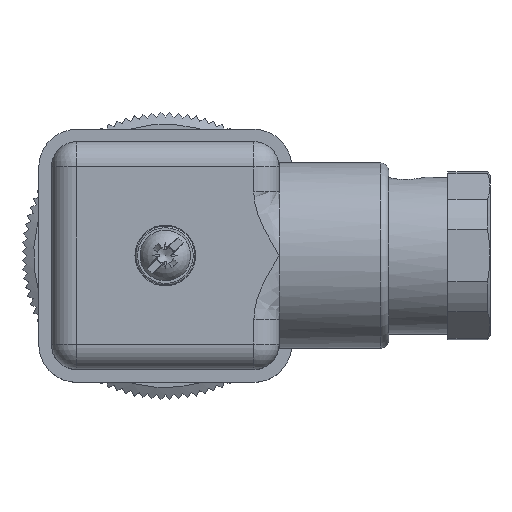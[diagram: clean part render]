
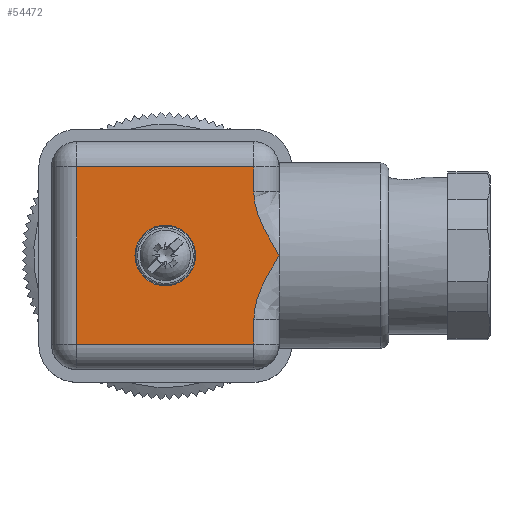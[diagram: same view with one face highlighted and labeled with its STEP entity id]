
A CAD part, top view. The second image highlights one B-rep face of the part: STEP entity #54472.
In plain terms, the highlighted planar face has unit normal (0, 0, 1) as drawn and (0, 1, 0) by its records, which use the part's own axes.
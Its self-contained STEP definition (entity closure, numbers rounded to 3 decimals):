
#1043=B_SPLINE_CURVE_WITH_KNOTS('',3,(#83882,#83883,#83884,#83885,#83886,
#83887,#83888,#83889,#83890,#83891,#83892,#83893,#83894,#83895,#83896,#83897,
#83898,#83899,#83900,#83901,#83902,#83903,#83904,#83905,#83906,#83907,#83908,
#83909,#83910,#83911,#83912,#83913,#83914,#83915),.UNSPECIFIED.,.F.,.F.,
(4,3,3,3,3,3,3,3,3,3,3,4),(0.,0.099,0.3,0.4,
0.486,0.5,0.5,0.638,0.76,
0.872,0.976,1.),.UNSPECIFIED.);
#1044=B_SPLINE_CURVE_WITH_KNOTS('',3,(#83926,#83927,#83928,#83929,#83930,
#83931,#83932,#83933,#83934,#83935,#83936,#83937,#83938,#83939,#83940,#83941,
#83942,#83943,#83944,#83945,#83946,#83947,#83948,#83949,#83950,#83951,#83952,
#83953,#83954,#83955,#83956,#83957,#83958,#83959),.UNSPECIFIED.,.F.,.F.,
(4,3,3,3,3,3,3,3,3,3,3,4),(0.,0.104,0.218,0.342,
0.491,0.5,0.5,0.587,0.683,
0.812,0.918,1.),.UNSPECIFIED.);
#3224=LINE('',#83917,#9096);
#3225=LINE('',#83919,#9097);
#3226=LINE('',#83921,#9098);
#3227=LINE('',#83923,#9099);
#3228=LINE('',#83925,#9100);
#9096=VECTOR('',#65323,1.);
#9097=VECTOR('',#65324,1.);
#9098=VECTOR('',#65325,1.);
#9099=VECTOR('',#65326,1.);
#9100=VECTOR('',#65327,1.);
#14242=FACE_BOUND('',#18747,.T.);
#15084=FACE_OUTER_BOUND('',#18746,.T.);
#18746=EDGE_LOOP('',(#39241,#39242,#39243,#39244,#39245,#39246,#39247));
#18747=EDGE_LOOP('',(#39248));
#22146=CIRCLE('',#58618,3.6);
#24012=VERTEX_POINT('',#83880);
#24013=VERTEX_POINT('',#83881);
#24014=VERTEX_POINT('',#83916);
#24015=VERTEX_POINT('',#83918);
#24016=VERTEX_POINT('',#83920);
#24017=VERTEX_POINT('',#83922);
#24018=VERTEX_POINT('',#83924);
#24019=VERTEX_POINT('',#83960);
#29257=EDGE_CURVE('',#24012,#24013,#1043,.T.);
#29258=EDGE_CURVE('',#24013,#24014,#3224,.T.);
#29259=EDGE_CURVE('',#24014,#24015,#3225,.T.);
#29260=EDGE_CURVE('',#24015,#24016,#3226,.T.);
#29261=EDGE_CURVE('',#24016,#24017,#3227,.T.);
#29262=EDGE_CURVE('',#24017,#24018,#3228,.T.);
#29263=EDGE_CURVE('',#24018,#24012,#1044,.T.);
#29264=EDGE_CURVE('',#24019,#24019,#22146,.T.);
#39241=ORIENTED_EDGE('',*,*,#29257,.T.);
#39242=ORIENTED_EDGE('',*,*,#29258,.T.);
#39243=ORIENTED_EDGE('',*,*,#29259,.T.);
#39244=ORIENTED_EDGE('',*,*,#29260,.T.);
#39245=ORIENTED_EDGE('',*,*,#29261,.T.);
#39246=ORIENTED_EDGE('',*,*,#29262,.T.);
#39247=ORIENTED_EDGE('',*,*,#29263,.T.);
#39248=ORIENTED_EDGE('',*,*,#29264,.T.);
#51355=PLANE('',#58617);
#54472=ADVANCED_FACE('',(#15084,#14242),#51355,.T.);
#58617=AXIS2_PLACEMENT_3D('',#83879,#65321,#65322);
#58618=AXIS2_PLACEMENT_3D('',#83961,#65328,#65329);
#65321=DIRECTION('center_axis',(0.,1.,0.));
#65322=DIRECTION('ref_axis',(0.,0.,1.));
#65323=DIRECTION('',(0.,0.,-1.));
#65324=DIRECTION('',(-1.,0.,0.));
#65325=DIRECTION('',(0.,0.,1.));
#65326=DIRECTION('',(1.,0.,0.));
#65327=DIRECTION('',(0.,0.,-1.));
#65328=DIRECTION('center_axis',(0.,-1.,0.));
#65329=DIRECTION('ref_axis',(0.,0.,-1.));
#83879=CARTESIAN_POINT('Origin',(13.5,26.5,0.));
#83880=CARTESIAN_POINT('',(27.,26.5,13.5));
#83881=CARTESIAN_POINT('',(24.,26.5,5.95));
#83882=CARTESIAN_POINT('Ctrl Pts',(27.,26.5,13.5));
#83883=CARTESIAN_POINT('Ctrl Pts',(26.856,26.5,13.265));
#83884=CARTESIAN_POINT('Ctrl Pts',(26.713,26.5,13.031));
#83885=CARTESIAN_POINT('Ctrl Pts',(26.571,26.5,12.798));
#83886=CARTESIAN_POINT('Ctrl Pts',(26.285,26.5,12.326));
#83887=CARTESIAN_POINT('Ctrl Pts',(26.006,26.5,11.856));
#83888=CARTESIAN_POINT('Ctrl Pts',(25.741,26.5,11.378));
#83889=CARTESIAN_POINT('Ctrl Pts',(25.609,26.5,11.14));
#83890=CARTESIAN_POINT('Ctrl Pts',(25.48,26.5,10.899));
#83891=CARTESIAN_POINT('Ctrl Pts',(25.356,26.5,10.656));
#83892=CARTESIAN_POINT('Ctrl Pts',(25.249,26.5,10.447));
#83893=CARTESIAN_POINT('Ctrl Pts',(25.146,26.5,10.237));
#83894=CARTESIAN_POINT('Ctrl Pts',(25.047,26.5,10.024));
#83895=CARTESIAN_POINT('Ctrl Pts',(25.031,26.5,9.988));
#83896=CARTESIAN_POINT('Ctrl Pts',(25.014,26.5,9.953));
#83897=CARTESIAN_POINT('Ctrl Pts',(24.998,26.5,9.917));
#83898=CARTESIAN_POINT('Ctrl Pts',(24.998,26.5,9.917));
#83899=CARTESIAN_POINT('Ctrl Pts',(24.998,26.5,9.917));
#83900=CARTESIAN_POINT('Ctrl Pts',(24.998,26.5,9.917));
#83901=CARTESIAN_POINT('Ctrl Pts',(24.841,26.5,9.572));
#83902=CARTESIAN_POINT('Ctrl Pts',(24.694,26.5,9.221));
#83903=CARTESIAN_POINT('Ctrl Pts',(24.564,26.5,8.864));
#83904=CARTESIAN_POINT('Ctrl Pts',(24.451,26.5,8.55));
#83905=CARTESIAN_POINT('Ctrl Pts',(24.349,26.5,8.231));
#83906=CARTESIAN_POINT('Ctrl Pts',(24.265,26.5,7.909));
#83907=CARTESIAN_POINT('Ctrl Pts',(24.188,26.5,7.611));
#83908=CARTESIAN_POINT('Ctrl Pts',(24.125,26.5,7.309));
#83909=CARTESIAN_POINT('Ctrl Pts',(24.08,26.5,7.005));
#83910=CARTESIAN_POINT('Ctrl Pts',(24.038,26.5,6.723));
#83911=CARTESIAN_POINT('Ctrl Pts',(24.012,26.5,6.438));
#83912=CARTESIAN_POINT('Ctrl Pts',(24.003,26.5,6.151));
#83913=CARTESIAN_POINT('Ctrl Pts',(24.001,26.5,6.084));
#83914=CARTESIAN_POINT('Ctrl Pts',(24.,26.5,6.017));
#83915=CARTESIAN_POINT('Ctrl Pts',(24.,26.5,5.95));
#83916=CARTESIAN_POINT('',(24.,26.5,3.));
#83917=CARTESIAN_POINT('',(24.,26.5,0.));
#83918=CARTESIAN_POINT('',(3.,26.5,3.));
#83919=CARTESIAN_POINT('',(13.5,26.5,3.));
#83920=CARTESIAN_POINT('',(3.,26.5,24.));
#83921=CARTESIAN_POINT('',(3.,26.5,0.));
#83922=CARTESIAN_POINT('',(24.,26.5,24.));
#83923=CARTESIAN_POINT('',(13.5,26.5,24.));
#83924=CARTESIAN_POINT('',(24.,26.5,21.05));
#83925=CARTESIAN_POINT('',(24.,26.5,0.));
#83926=CARTESIAN_POINT('Ctrl Pts',(24.,26.5,21.05));
#83927=CARTESIAN_POINT('Ctrl Pts',(24.,26.5,20.762));
#83928=CARTESIAN_POINT('Ctrl Pts',(24.019,26.5,20.476));
#83929=CARTESIAN_POINT('Ctrl Pts',(24.053,26.5,20.193));
#83930=CARTESIAN_POINT('Ctrl Pts',(24.091,26.5,19.882));
#83931=CARTESIAN_POINT('Ctrl Pts',(24.148,26.5,19.574));
#83932=CARTESIAN_POINT('Ctrl Pts',(24.221,26.5,19.269));
#83933=CARTESIAN_POINT('Ctrl Pts',(24.3,26.5,18.939));
#83934=CARTESIAN_POINT('Ctrl Pts',(24.398,26.5,18.613));
#83935=CARTESIAN_POINT('Ctrl Pts',(24.509,26.5,18.292));
#83936=CARTESIAN_POINT('Ctrl Pts',(24.644,26.5,17.905));
#83937=CARTESIAN_POINT('Ctrl Pts',(24.798,26.5,17.525));
#83938=CARTESIAN_POINT('Ctrl Pts',(24.966,26.5,17.153));
#83939=CARTESIAN_POINT('Ctrl Pts',(24.977,26.5,17.13));
#83940=CARTESIAN_POINT('Ctrl Pts',(24.987,26.5,17.106));
#83941=CARTESIAN_POINT('Ctrl Pts',(24.998,26.5,17.083));
#83942=CARTESIAN_POINT('Ctrl Pts',(24.998,26.5,17.083));
#83943=CARTESIAN_POINT('Ctrl Pts',(24.998,26.5,17.083));
#83944=CARTESIAN_POINT('Ctrl Pts',(24.998,26.5,17.083));
#83945=CARTESIAN_POINT('Ctrl Pts',(25.097,26.5,16.866));
#83946=CARTESIAN_POINT('Ctrl Pts',(25.2,26.5,16.652));
#83947=CARTESIAN_POINT('Ctrl Pts',(25.307,26.5,16.441));
#83948=CARTESIAN_POINT('Ctrl Pts',(25.425,26.5,16.207));
#83949=CARTESIAN_POINT('Ctrl Pts',(25.547,26.5,15.976));
#83950=CARTESIAN_POINT('Ctrl Pts',(25.673,26.5,15.746));
#83951=CARTESIAN_POINT('Ctrl Pts',(25.841,26.5,15.438));
#83952=CARTESIAN_POINT('Ctrl Pts',(26.016,26.5,15.133));
#83953=CARTESIAN_POINT('Ctrl Pts',(26.196,26.5,14.83));
#83954=CARTESIAN_POINT('Ctrl Pts',(26.343,26.5,14.579));
#83955=CARTESIAN_POINT('Ctrl Pts',(26.493,26.5,14.33));
#83956=CARTESIAN_POINT('Ctrl Pts',(26.645,26.5,14.08));
#83957=CARTESIAN_POINT('Ctrl Pts',(26.763,26.5,13.887));
#83958=CARTESIAN_POINT('Ctrl Pts',(26.881,26.5,13.694));
#83959=CARTESIAN_POINT('Ctrl Pts',(27.,26.5,13.5));
#83960=CARTESIAN_POINT('',(13.5,26.5,17.1));
#83961=CARTESIAN_POINT('Origin',(13.5,26.5,13.5));
